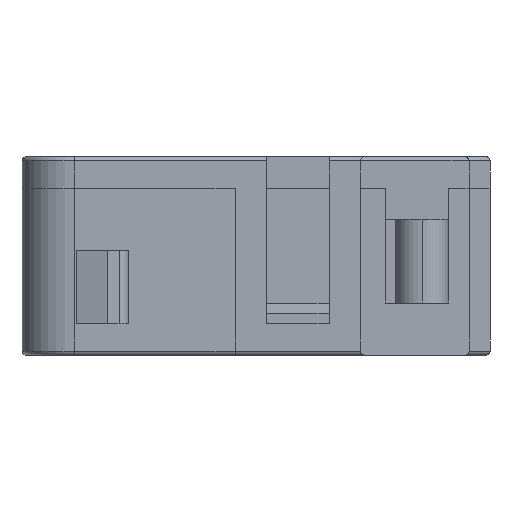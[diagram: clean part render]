
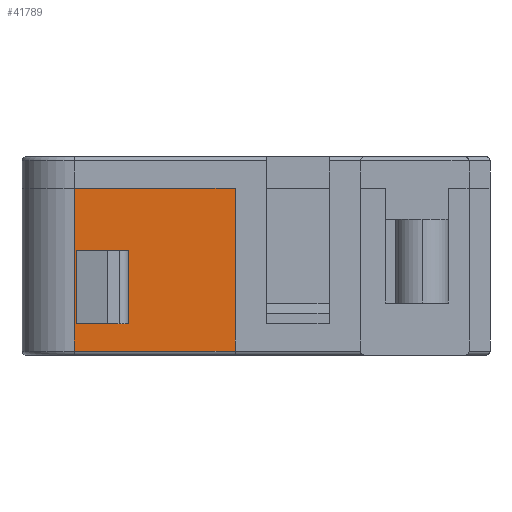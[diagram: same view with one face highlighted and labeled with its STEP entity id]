
A CAD part, front view. The second image highlights one B-rep face of the part: STEP entity #41789.
In plain terms, the highlighted planar face has unit normal (0, -1, 0).
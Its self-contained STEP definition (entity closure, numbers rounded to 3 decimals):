
#914 = CARTESIAN_POINT ( 'NONE',  ( -3.468, -14.01, -1.3 ) ) ;
#2662 = VECTOR ( 'NONE', #33392, 1000. ) ;
#3022 = ORIENTED_EDGE ( 'NONE', *, *, #7301, .F. ) ;
#3348 = DIRECTION ( 'NONE',  ( 1., 0., 0. ) ) ;
#4474 = EDGE_CURVE ( 'NONE', #28668, #34468, #8729, .T. ) ;
#5391 = CARTESIAN_POINT ( 'NONE',  ( -2.368, -14.01, 3.5 ) ) ;
#5828 = VECTOR ( 'NONE', #41398, 1000. ) ;
#5929 = CARTESIAN_POINT ( 'NONE',  ( -2.368, -14.01, 0. ) ) ;
#6039 = EDGE_CURVE ( 'NONE', #34468, #33833, #34995, .T. ) ;
#6107 = CARTESIAN_POINT ( 'NONE',  ( -0.868, -14.01, 3.5 ) ) ;
#6134 = EDGE_CURVE ( 'NONE', #39399, #33833, #27229, .T. ) ;
#7301 = EDGE_CURVE ( 'NONE', #27002, #22217, #26766, .T. ) ;
#8729 = LINE ( 'NONE', #40684, #44880 ) ;
#9212 = DIRECTION ( 'NONE',  ( 0., 0., -1. ) ) ;
#9492 = CARTESIAN_POINT ( 'NONE',  ( -0.868, -14.01, 3.5 ) ) ;
#10933 = ORIENTED_EDGE ( 'NONE', *, *, #6134, .F. ) ;
#12526 = CARTESIAN_POINT ( 'NONE',  ( -3.468, -14.01, 6.5 ) ) ;
#12577 = LINE ( 'NONE', #39157, #40723 ) ;
#12896 = VERTEX_POINT ( 'NONE', #9492 ) ;
#13094 = CARTESIAN_POINT ( 'NONE',  ( -2.368, -14.01, 3.5 ) ) ;
#13315 = LINE ( 'NONE', #12526, #5828 ) ;
#13542 = CARTESIAN_POINT ( 'NONE',  ( -5.968, -14.01, 6.5 ) ) ;
#14098 = EDGE_LOOP ( 'NONE', ( #35953, #43149, #37950, #3022 ) ) ;
#14203 = CARTESIAN_POINT ( 'NONE',  ( -0.868, -14.01, 3.5 ) ) ;
#14339 = PLANE ( 'NONE',  #17584 ) ;
#14782 = EDGE_LOOP ( 'NONE', ( #18152, #20715, #37152, #10933 ) ) ;
#16478 = LINE ( 'NONE', #14203, #2662 ) ;
#17534 = CARTESIAN_POINT ( 'NONE',  ( -3.468, -14.01, 6.5 ) ) ;
#17584 = AXIS2_PLACEMENT_3D ( 'NONE', #44763, #40923, #31818 ) ;
#18152 = ORIENTED_EDGE ( 'NONE', *, *, #30644, .T. ) ;
#18632 = DIRECTION ( 'NONE',  ( -1., 0., 0. ) ) ;
#20715 = ORIENTED_EDGE ( 'NONE', *, *, #4474, .T. ) ;
#22217 = VERTEX_POINT ( 'NONE', #5929 ) ;
#22912 = VECTOR ( 'NONE', #25130, 1000. ) ;
#24933 = FACE_BOUND ( 'NONE', #14098, .T. ) ;
#25130 = DIRECTION ( 'NONE',  ( 0., 0., 1. ) ) ;
#26766 = LINE ( 'NONE', #13094, #43892 ) ;
#27002 = VERTEX_POINT ( 'NONE', #5391 ) ;
#27229 = LINE ( 'NONE', #13542, #29722 ) ;
#28668 = VERTEX_POINT ( 'NONE', #914 ) ;
#29722 = VECTOR ( 'NONE', #30257, 1000. ) ;
#30215 = CARTESIAN_POINT ( 'NONE',  ( 4.232, -14.01, -1.3 ) ) ;
#30257 = DIRECTION ( 'NONE',  ( 1., 0., 0. ) ) ;
#30644 = EDGE_CURVE ( 'NONE', #39399, #28668, #13315, .T. ) ;
#30833 = CARTESIAN_POINT ( 'NONE',  ( 4.232, -14.01, 6.5 ) ) ;
#31818 = DIRECTION ( 'NONE',  ( 0., 0., 1. ) ) ;
#32033 = LINE ( 'NONE', #6107, #34974 ) ;
#32618 = EDGE_CURVE ( 'NONE', #38969, #22217, #12577, .T. ) ;
#33392 = DIRECTION ( 'NONE',  ( -1., 0., 0. ) ) ;
#33833 = VERTEX_POINT ( 'NONE', #30833 ) ;
#34468 = VERTEX_POINT ( 'NONE', #30215 ) ;
#34974 = VECTOR ( 'NONE', #9212, 1000. ) ;
#34995 = LINE ( 'NONE', #43376, #22912 ) ;
#35953 = ORIENTED_EDGE ( 'NONE', *, *, #46091, .F. ) ;
#37152 = ORIENTED_EDGE ( 'NONE', *, *, #6039, .T. ) ;
#37950 = ORIENTED_EDGE ( 'NONE', *, *, #32618, .T. ) ;
#38969 = VERTEX_POINT ( 'NONE', #46227 ) ;
#39157 = CARTESIAN_POINT ( 'NONE',  ( -0.868, -14.01, 0. ) ) ;
#39399 = VERTEX_POINT ( 'NONE', #17534 ) ;
#40684 = CARTESIAN_POINT ( 'NONE',  ( -5.968, -14.01, -1.3 ) ) ;
#40723 = VECTOR ( 'NONE', #18632, 1000. ) ;
#40923 = DIRECTION ( 'NONE',  ( 0., 1., 0. ) ) ;
#41398 = DIRECTION ( 'NONE',  ( 0., 0., -1. ) ) ;
#41789 = ADVANCED_FACE ( 'NONE', ( #45514, #24933 ), #14339, .F. ) ;
#42312 = EDGE_CURVE ( 'NONE', #12896, #38969, #32033, .T. ) ;
#42737 = DIRECTION ( 'NONE',  ( 0., 0., -1. ) ) ;
#43149 = ORIENTED_EDGE ( 'NONE', *, *, #42312, .T. ) ;
#43376 = CARTESIAN_POINT ( 'NONE',  ( 4.232, -14.01, -1.5 ) ) ;
#43892 = VECTOR ( 'NONE', #42737, 1000. ) ;
#44763 = CARTESIAN_POINT ( 'NONE',  ( -5.968, -14.01, 6.5 ) ) ;
#44880 = VECTOR ( 'NONE', #3348, 1000. ) ;
#45514 = FACE_OUTER_BOUND ( 'NONE', #14782, .T. ) ;
#46091 = EDGE_CURVE ( 'NONE', #12896, #27002, #16478, .T. ) ;
#46227 = CARTESIAN_POINT ( 'NONE',  ( -0.868, -14.01, 0. ) ) ;
